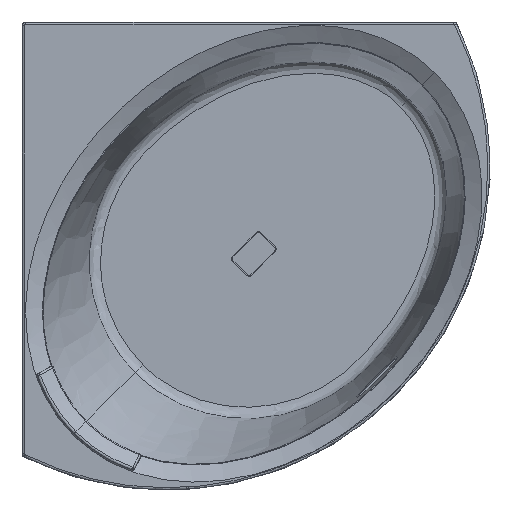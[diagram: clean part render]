
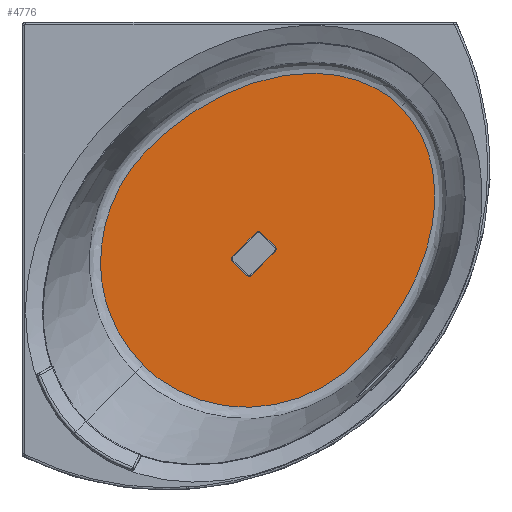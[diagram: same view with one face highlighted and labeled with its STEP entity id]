
A CAD part, top view. The second image highlights one B-rep face of the part: STEP entity #4776.
In plain terms, the highlighted planar face has unit normal (0, 0, 1).
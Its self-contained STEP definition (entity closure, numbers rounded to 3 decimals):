
#1388=CARTESIAN_POINT('',(685.872,-756.583,-500.478));
#1389=VERTEX_POINT('',#1388);
#1407=CARTESIAN_POINT('',(671.73,-756.583,-500.478));
#1408=VERTEX_POINT('',#1407);
#1415=CARTESIAN_POINT('',(679.425,-759.492,-500.478));
#1416=VERTEX_POINT('',#1415);
#1417=CARTESIAN_POINT('',(678.801,-749.512,-500.478));
#1418=DIRECTION('',(0.0,0.0,1.0));
#1419=DIRECTION('',(-0.707,-0.707,0.0));
#1420=AXIS2_PLACEMENT_3D('',#1417,#1418,#1419);
#1421=CIRCLE('',#1420,10.0);
#1422=EDGE_CURVE('',#1408,#1416,#1421,.T.);
#1424=CARTESIAN_POINT('',(678.801,-749.512,-500.478));
#1425=DIRECTION('',(0.0,0.0,1.0));
#1426=DIRECTION('',(-0.707,-0.707,0.0));
#1427=AXIS2_PLACEMENT_3D('',#1424,#1425,#1426);
#1428=CIRCLE('',#1427,10.0);
#1429=EDGE_CURVE('',#1416,#1389,#1428,.T.);
#1439=CARTESIAN_POINT('',(756.583,-685.872,-500.478));
#1440=VERTEX_POINT('',#1439);
#1441=CARTESIAN_POINT('',(685.872,-756.583,-500.478));
#1442=DIRECTION('',(0.707,0.707,0.0));
#1443=VECTOR('',#1442,100.);
#1444=LINE('',#1441,#1443);
#1445=EDGE_CURVE('',#1389,#1440,#1444,.T.);
#1470=CARTESIAN_POINT('',(756.583,-671.73,-500.478));
#1471=VERTEX_POINT('',#1470);
#1488=CARTESIAN_POINT('',(759.492,-679.425,-500.478));
#1489=VERTEX_POINT('',#1488);
#1490=CARTESIAN_POINT('',(749.512,-678.801,-500.478));
#1491=DIRECTION('',(0.0,0.0,1.));
#1492=DIRECTION('',(0.707,-0.707,0.0));
#1493=AXIS2_PLACEMENT_3D('',#1490,#1491,#1492);
#1494=CIRCLE('',#1493,10.0);
#1495=EDGE_CURVE('',#1440,#1489,#1494,.T.);
#1497=CARTESIAN_POINT('',(749.512,-678.801,-500.478));
#1498=DIRECTION('',(0.0,0.0,1.));
#1499=DIRECTION('',(0.707,-0.707,0.0));
#1500=AXIS2_PLACEMENT_3D('',#1497,#1498,#1499);
#1501=CIRCLE('',#1500,10.0);
#1502=EDGE_CURVE('',#1489,#1471,#1501,.T.);
#1512=CARTESIAN_POINT('',(714.156,-629.303,-500.478));
#1513=VERTEX_POINT('',#1512);
#1514=CARTESIAN_POINT('',(756.583,-671.73,-500.478));
#1515=DIRECTION('',(-0.707,0.707,0.0));
#1516=VECTOR('',#1515,60.0);
#1517=LINE('',#1514,#1516);
#1518=EDGE_CURVE('',#1471,#1513,#1517,.T.);
#1543=CARTESIAN_POINT('',(700.014,-629.303,-500.478));
#1544=VERTEX_POINT('',#1543);
#1561=CARTESIAN_POINT('',(706.461,-626.394,-500.478));
#1562=VERTEX_POINT('',#1561);
#1563=CARTESIAN_POINT('',(707.085,-636.375,-500.478));
#1564=DIRECTION('',(0.0,0.0,1.0));
#1565=DIRECTION('',(0.707,0.707,0.0));
#1566=AXIS2_PLACEMENT_3D('',#1563,#1564,#1565);
#1567=CIRCLE('',#1566,10.0);
#1568=EDGE_CURVE('',#1513,#1562,#1567,.T.);
#1570=CARTESIAN_POINT('',(707.085,-636.375,-500.478));
#1571=DIRECTION('',(0.0,0.0,1.0));
#1572=DIRECTION('',(0.707,0.707,0.0));
#1573=AXIS2_PLACEMENT_3D('',#1570,#1571,#1572);
#1574=CIRCLE('',#1573,10.0);
#1575=EDGE_CURVE('',#1562,#1544,#1574,.T.);
#1585=CARTESIAN_POINT('',(629.303,-700.014,-500.478));
#1586=VERTEX_POINT('',#1585);
#1587=CARTESIAN_POINT('',(700.014,-629.303,-500.478));
#1588=DIRECTION('',(-0.707,-0.707,0.0));
#1589=VECTOR('',#1588,100.);
#1590=LINE('',#1587,#1589);
#1591=EDGE_CURVE('',#1544,#1586,#1590,.T.);
#1616=CARTESIAN_POINT('',(629.303,-714.156,-500.478));
#1617=VERTEX_POINT('',#1616);
#1634=CARTESIAN_POINT('',(626.394,-706.461,-500.478));
#1635=VERTEX_POINT('',#1634);
#1636=CARTESIAN_POINT('',(636.375,-707.085,-500.478));
#1637=DIRECTION('',(0.0,0.0,1.0));
#1638=DIRECTION('',(-0.707,-0.707,0.0));
#1639=AXIS2_PLACEMENT_3D('',#1636,#1637,#1638);
#1640=CIRCLE('',#1639,10.0);
#1641=EDGE_CURVE('',#1586,#1635,#1640,.T.);
#1643=CARTESIAN_POINT('',(636.375,-707.085,-500.478));
#1644=DIRECTION('',(0.0,0.0,1.0));
#1645=DIRECTION('',(-0.707,-0.707,0.0));
#1646=AXIS2_PLACEMENT_3D('',#1643,#1644,#1645);
#1647=CIRCLE('',#1646,10.0);
#1648=EDGE_CURVE('',#1635,#1617,#1647,.T.);
#1658=CARTESIAN_POINT('',(629.303,-714.156,-500.478));
#1659=DIRECTION('',(0.707,-0.707,0.0));
#1660=VECTOR('',#1659,60.);
#1661=LINE('',#1658,#1660);
#1662=EDGE_CURVE('',#1617,#1408,#1661,.T.);
#4701=CARTESIAN_POINT('',(-1036.386,-580.696,-500.478));
#4702=DIRECTION('',(0.0,0.0,-1.0));
#4703=DIRECTION('',(0.707,0.707,0.0));
#4704=AXIS2_PLACEMENT_3D('',#4701,#4702,#4703);
#4705=PLANE('',#4704);
#4706=CARTESIAN_POINT('',(1132.45,-253.443,-500.478));
#4707=VERTEX_POINT('',#4706);
#4708=CARTESIAN_POINT('',(361.33,-1024.557,-500.478));
#4709=VERTEX_POINT('',#4708);
#4710=CARTESIAN_POINT('',(1132.45,-253.443,-500.478));
#4711=CARTESIAN_POINT('',(1147.352,-268.349,-500.478));
#4712=CARTESIAN_POINT('',(1178.178,-305.998,-500.478));
#4713=CARTESIAN_POINT('',(1209.495,-368.671,-500.478));
#4714=CARTESIAN_POINT('',(1230.357,-445.912,-500.478));
#4715=CARTESIAN_POINT('',(1237.133,-539.132,-500.478));
#4716=CARTESIAN_POINT('',(1222.426,-641.198,-500.478));
#4717=CARTESIAN_POINT('',(1181.523,-766.527,-500.478));
#4718=CARTESIAN_POINT('',(1125.546,-867.238,-500.478));
#4719=CARTESIAN_POINT('',(1066.029,-944.624,-500.478));
#4720=CARTESIAN_POINT('',(1035.321,-979.612,-500.478));
#4721=CARTESIAN_POINT('',(1013.2,-1002.935,-500.478));
#4722=CARTESIAN_POINT('',(993.359,-1022.484,-500.478));
#4723=CARTESIAN_POINT('',(970.297,-1042.591,-500.478));
#4724=CARTESIAN_POINT('',(934.281,-1070.11,-500.478));
#4725=CARTESIAN_POINT('',(885.573,-1099.528,-500.478));
#4726=CARTESIAN_POINT('',(808.118,-1132.775,-500.478));
#4727=CARTESIAN_POINT('',(722.58,-1151.53,-500.478));
#4728=CARTESIAN_POINT('',(616.451,-1151.627,-500.478));
#4729=CARTESIAN_POINT('',(513.171,-1128.303,-500.478));
#4730=CARTESIAN_POINT('',(423.613,-1080.096,-500.478));
#4731=CARTESIAN_POINT('',(377.147,-1040.374,-500.478));
#4732=CARTESIAN_POINT('',(361.33,-1024.557,-500.478));
#4733=B_SPLINE_CURVE_WITH_KNOTS('',3,(#4710,#4711,#4712,#4713,#4714,#4715,#4716,#4717,#4718,#4719,#4720,#4721,#4722,#4723,#4724,#4725,#4726,#4727,#4728,#4729,#4730,#4731,#4732),.UNSPECIFIED.,.F.,.U.,(4,1,1,1,1,1,1,1,1,1,1,1,1,1,1,1,1,1,1,1,4),(0.008,63.343,145.091,208.78,302.528,423.937,516.328,697.081,767.232,809.,836.694,863.658,892.534,928.436,999.552,1062.785,1180.767,1260.194,1379.936,1495.462,1562.635),.UNSPECIFIED.);
#4734=EDGE_CURVE('',#4707,#4709,#4733,.T.);
#4735=ORIENTED_EDGE('',*,*,#4734,.F.);
#4736=CARTESIAN_POINT('',(361.33,-1024.557,-500.478));
#4737=CARTESIAN_POINT('',(336.813,-1000.041,-500.478));
#4738=CARTESIAN_POINT('',(286.868,-936.232,-500.478));
#4739=CARTESIAN_POINT('',(242.167,-825.197,-500.478));
#4740=CARTESIAN_POINT('',(230.979,-710.324,-500.478));
#4741=CARTESIAN_POINT('',(246.084,-595.073,-500.478));
#4742=CARTESIAN_POINT('',(286.35,-493.688,-500.478));
#4743=CARTESIAN_POINT('',(336.227,-422.898,-500.478));
#4744=CARTESIAN_POINT('',(371.22,-384.163,-500.478));
#4745=CARTESIAN_POINT('',(399.27,-356.861,-500.478));
#4746=CARTESIAN_POINT('',(438.054,-322.406,-500.478));
#4747=CARTESIAN_POINT('',(500.766,-274.026,-500.478));
#4748=CARTESIAN_POINT('',(600.28,-213.391,-500.478));
#4749=CARTESIAN_POINT('',(714.718,-169.962,-500.478));
#4750=CARTESIAN_POINT('',(819.868,-152.526,-500.478));
#4751=CARTESIAN_POINT('',(893.996,-151.251,-500.478));
#4752=CARTESIAN_POINT('',(964.328,-160.843,-500.478));
#4753=CARTESIAN_POINT('',(1032.815,-182.617,-500.478));
#4754=CARTESIAN_POINT('',(1089.926,-215.253,-500.478));
#4755=CARTESIAN_POINT('',(1121.284,-242.279,-500.478));
#4756=CARTESIAN_POINT('',(1132.45,-253.443,-500.478));
#4757=B_SPLINE_CURVE_WITH_KNOTS('',3,(#4736,#4737,#4738,#4739,#4740,#4741,#4742,#4743,#4744,#4745,#4746,#4747,#4748,#4749,#4750,#4751,#4752,#4753,#4754,#4755,#4756),.UNSPECIFIED.,.F.,.U.,(4,1,1,1,1,1,1,1,1,1,1,1,1,1,1,1,1,1,4),(0.0,104.268,240.864,354.83,447.672,587.804,678.652,706.357,744.338,796.03,861.942,981.756,1144.756,1226.544,1300.639,1366.542,1438.864,1515.217,1562.626),.UNSPECIFIED.);
#4758=EDGE_CURVE('',#4709,#4707,#4757,.T.);
#4759=ORIENTED_EDGE('',*,*,#4758,.F.);
#4760=EDGE_LOOP('',(#4735,#4759));
#4761=FACE_OUTER_BOUND('',#4760,.T.);
#4762=ORIENTED_EDGE('',*,*,#1641,.F.);
#4763=ORIENTED_EDGE('',*,*,#1591,.F.);
#4764=ORIENTED_EDGE('',*,*,#1575,.F.);
#4765=ORIENTED_EDGE('',*,*,#1568,.F.);
#4766=ORIENTED_EDGE('',*,*,#1518,.F.);
#4767=ORIENTED_EDGE('',*,*,#1502,.F.);
#4768=ORIENTED_EDGE('',*,*,#1495,.F.);
#4769=ORIENTED_EDGE('',*,*,#1445,.F.);
#4770=ORIENTED_EDGE('',*,*,#1429,.F.);
#4771=ORIENTED_EDGE('',*,*,#1422,.F.);
#4772=ORIENTED_EDGE('',*,*,#1662,.F.);
#4773=ORIENTED_EDGE('',*,*,#1648,.F.);
#4774=EDGE_LOOP('',(#4762,#4763,#4764,#4765,#4766,#4767,#4768,#4769,#4770,#4771,#4772,#4773));
#4775=FACE_BOUND('',#4774,.T.);
#4776=ADVANCED_FACE('',(#4761,#4775),#4705,.F.);
